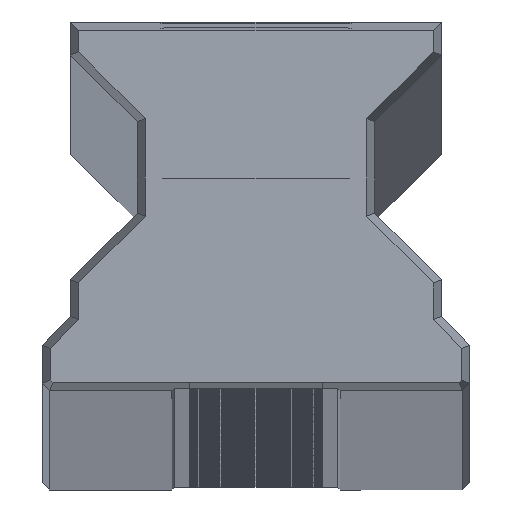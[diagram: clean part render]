
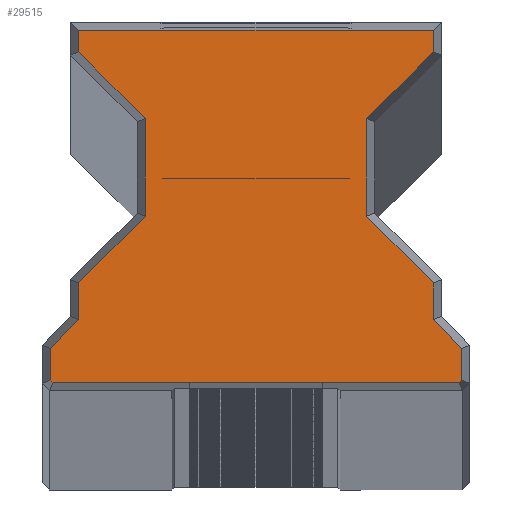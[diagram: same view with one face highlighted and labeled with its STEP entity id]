
A CAD part, top view. The second image highlights one B-rep face of the part: STEP entity #29515.
In plain terms, the highlighted planar face has unit normal (0, 0, 1).
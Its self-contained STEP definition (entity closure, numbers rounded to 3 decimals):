
#10239=DIRECTION('',(1.,0.,0.));
#10240=VECTOR('',#10239,42.696);
#10241=CARTESIAN_POINT('',(-21.348,0.85,0.));
#10242=LINE('',#10241,#10240);
#10243=DIRECTION('',(0.707,-0.707,0.));
#10244=VECTOR('',#10243,0.427);
#10245=CARTESIAN_POINT('',(-21.65,1.152,0.));
#10246=LINE('',#10245,#10244);
#10247=DIRECTION('',(0.,-1.,0.));
#10248=VECTOR('',#10247,3.3);
#10249=CARTESIAN_POINT('',(-21.65,4.452,0.));
#10250=LINE('',#10249,#10248);
#10251=DIRECTION('',(0.701,0.713,0.));
#10252=VECTOR('',#10251,4.281);
#10253=CARTESIAN_POINT('',(-21.65,4.452,0.));
#10254=LINE('',#10253,#10252);
#10255=DIRECTION('',(0.,-1.,0.));
#10256=VECTOR('',#10255,3.841);
#10257=CARTESIAN_POINT('',(-18.65,11.348,0.));
#10258=LINE('',#10257,#10256);
#10259=DIRECTION('',(-0.707,-0.707,0.));
#10260=VECTOR('',#10259,9.899);
#10261=CARTESIAN_POINT('',(-11.65,18.348,0.));
#10262=LINE('',#10261,#10260);
#10263=DIRECTION('',(0.,-1.,0.));
#10264=VECTOR('',#10263,10.304);
#10265=CARTESIAN_POINT('',(-11.65,28.652,0.));
#10266=LINE('',#10265,#10264);
#10267=DIRECTION('',(0.707,-0.707,0.));
#10268=VECTOR('',#10267,9.899);
#10269=CARTESIAN_POINT('',(-18.65,35.652,0.));
#10270=LINE('',#10269,#10268);
#10271=DIRECTION('',(0.,-1.,0.));
#10272=VECTOR('',#10271,2.298);
#10273=CARTESIAN_POINT('',(-18.65,37.95,0.));
#10274=LINE('',#10273,#10272);
#10275=DIRECTION('',(-1.,0.,0.));
#10276=VECTOR('',#10275,37.3);
#10277=CARTESIAN_POINT('',(18.65,37.95,0.));
#10278=LINE('',#10277,#10276);
#10279=DIRECTION('',(0.,1.,0.));
#10280=VECTOR('',#10279,2.298);
#10281=CARTESIAN_POINT('',(18.65,35.652,0.));
#10282=LINE('',#10281,#10280);
#10283=DIRECTION('',(-0.707,-0.707,0.));
#10284=VECTOR('',#10283,9.899);
#10285=CARTESIAN_POINT('',(18.65,35.652,0.));
#10286=LINE('',#10285,#10284);
#10287=DIRECTION('',(0.,1.,0.));
#10288=VECTOR('',#10287,10.304);
#10289=CARTESIAN_POINT('',(11.65,18.348,0.));
#10290=LINE('',#10289,#10288);
#10291=DIRECTION('',(-0.707,0.707,0.));
#10292=VECTOR('',#10291,9.899);
#10293=CARTESIAN_POINT('',(18.65,11.348,0.));
#10294=LINE('',#10293,#10292);
#10295=DIRECTION('',(0.,1.,0.));
#10296=VECTOR('',#10295,3.841);
#10297=CARTESIAN_POINT('',(18.65,7.507,0.));
#10298=LINE('',#10297,#10296);
#10299=DIRECTION('',(-0.701,0.713,0.));
#10300=VECTOR('',#10299,4.281);
#10301=CARTESIAN_POINT('',(21.65,4.452,0.));
#10302=LINE('',#10301,#10300);
#10303=DIRECTION('',(0.,1.,0.));
#10304=VECTOR('',#10303,3.3);
#10305=CARTESIAN_POINT('',(21.65,1.152,0.));
#10306=LINE('',#10305,#10304);
#10307=DIRECTION('',(0.707,0.707,0.));
#10308=VECTOR('',#10307,0.427);
#10309=CARTESIAN_POINT('',(21.348,0.85,0.));
#10310=LINE('',#10309,#10308);
#10823=CARTESIAN_POINT('',(-21.348,0.85,0.));
#10824=CARTESIAN_POINT('',(21.348,0.85,0.));
#10825=VERTEX_POINT('',#10823);
#10826=VERTEX_POINT('',#10824);
#10827=CARTESIAN_POINT('',(21.65,1.152,0.));
#10828=VERTEX_POINT('',#10827);
#10829=CARTESIAN_POINT('',(21.65,4.452,0.));
#10830=VERTEX_POINT('',#10829);
#10831=CARTESIAN_POINT('',(18.65,7.507,0.));
#10832=VERTEX_POINT('',#10831);
#10833=CARTESIAN_POINT('',(18.65,11.348,0.));
#10834=VERTEX_POINT('',#10833);
#10835=CARTESIAN_POINT('',(11.65,18.348,0.));
#10836=VERTEX_POINT('',#10835);
#10837=CARTESIAN_POINT('',(11.65,28.652,0.));
#10838=VERTEX_POINT('',#10837);
#10839=CARTESIAN_POINT('',(18.65,35.652,0.));
#10840=VERTEX_POINT('',#10839);
#10841=CARTESIAN_POINT('',(18.65,37.95,0.));
#10842=VERTEX_POINT('',#10841);
#10843=CARTESIAN_POINT('',(-18.65,37.95,0.));
#10844=VERTEX_POINT('',#10843);
#10845=CARTESIAN_POINT('',(-18.65,35.652,0.));
#10846=VERTEX_POINT('',#10845);
#10847=CARTESIAN_POINT('',(-11.65,28.652,0.));
#10848=VERTEX_POINT('',#10847);
#10849=CARTESIAN_POINT('',(-11.65,18.348,0.));
#10850=VERTEX_POINT('',#10849);
#10851=CARTESIAN_POINT('',(-18.65,11.348,0.));
#10852=VERTEX_POINT('',#10851);
#10853=CARTESIAN_POINT('',(-18.65,7.507,0.));
#10854=VERTEX_POINT('',#10853);
#10855=CARTESIAN_POINT('',(-21.65,4.452,0.));
#10856=VERTEX_POINT('',#10855);
#13087=CARTESIAN_POINT('',(-21.65,1.152,0.));
#13088=VERTEX_POINT('',#13087);
#29473=CARTESIAN_POINT('',(0.,0.,0.));
#29474=DIRECTION('',(0.,0.,1.));
#29475=DIRECTION('',(1.,0.,0.));
#29476=AXIS2_PLACEMENT_3D('',#29473,#29474,#29475);
#29477=PLANE('',#29476);
#29479=ORIENTED_EDGE('',*,*,#29478,.F.);
#29481=ORIENTED_EDGE('',*,*,#29480,.F.);
#29483=ORIENTED_EDGE('',*,*,#29482,.F.);
#29485=ORIENTED_EDGE('',*,*,#29484,.T.);
#29487=ORIENTED_EDGE('',*,*,#29486,.F.);
#29489=ORIENTED_EDGE('',*,*,#29488,.F.);
#29491=ORIENTED_EDGE('',*,*,#29490,.F.);
#29492=ORIENTED_EDGE('',*,*,#29463,.F.);
#29494=ORIENTED_EDGE('',*,*,#29493,.F.);
#29496=ORIENTED_EDGE('',*,*,#29495,.F.);
#29498=ORIENTED_EDGE('',*,*,#29497,.F.);
#29500=ORIENTED_EDGE('',*,*,#29499,.T.);
#29502=ORIENTED_EDGE('',*,*,#29501,.F.);
#29504=ORIENTED_EDGE('',*,*,#29503,.F.);
#29506=ORIENTED_EDGE('',*,*,#29505,.F.);
#29508=ORIENTED_EDGE('',*,*,#29507,.F.);
#29510=ORIENTED_EDGE('',*,*,#29509,.F.);
#29512=ORIENTED_EDGE('',*,*,#29511,.F.);
#29513=EDGE_LOOP('',(#29479,#29481,#29483,#29485,#29487,#29489,#29491,#29492,
#29494,#29496,#29498,#29500,#29502,#29504,#29506,#29508,#29510,#29512));
#29514=FACE_OUTER_BOUND('',#29513,.F.);
#29463=EDGE_CURVE('',#10846,#10848,#10270,.T.);
#29478=EDGE_CURVE('',#10825,#10826,#10242,.T.);
#29480=EDGE_CURVE('',#13088,#10825,#10246,.T.);
#29482=EDGE_CURVE('',#10856,#13088,#10250,.T.);
#29484=EDGE_CURVE('',#10856,#10854,#10254,.T.);
#29486=EDGE_CURVE('',#10852,#10854,#10258,.T.);
#29488=EDGE_CURVE('',#10850,#10852,#10262,.T.);
#29490=EDGE_CURVE('',#10848,#10850,#10266,.T.);
#29493=EDGE_CURVE('',#10844,#10846,#10274,.T.);
#29495=EDGE_CURVE('',#10842,#10844,#10278,.T.);
#29497=EDGE_CURVE('',#10840,#10842,#10282,.T.);
#29499=EDGE_CURVE('',#10840,#10838,#10286,.T.);
#29501=EDGE_CURVE('',#10836,#10838,#10290,.T.);
#29503=EDGE_CURVE('',#10834,#10836,#10294,.T.);
#29505=EDGE_CURVE('',#10832,#10834,#10298,.T.);
#29507=EDGE_CURVE('',#10830,#10832,#10302,.T.);
#29509=EDGE_CURVE('',#10828,#10830,#10306,.T.);
#29511=EDGE_CURVE('',#10826,#10828,#10310,.T.);
#29515=ADVANCED_FACE('',(#29514),#29477,.T.);
